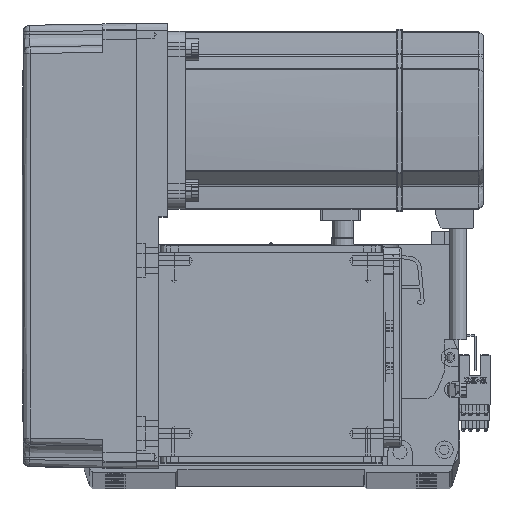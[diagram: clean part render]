
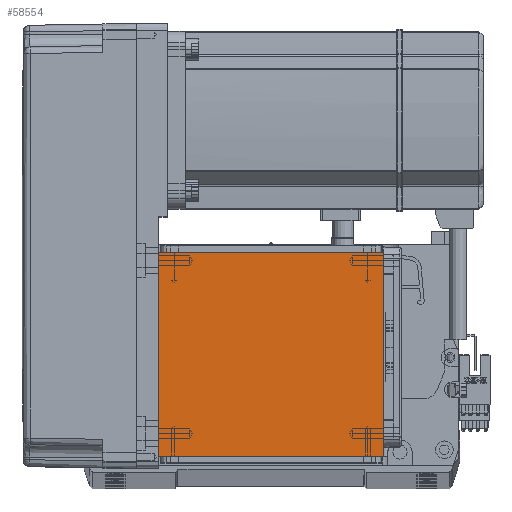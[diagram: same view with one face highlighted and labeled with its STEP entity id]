
A CAD part, top view. The second image highlights one B-rep face of the part: STEP entity #58554.
In plain terms, the highlighted planar face has unit normal (0, 0, 1).
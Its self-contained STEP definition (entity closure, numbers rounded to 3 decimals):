
#640 = AXIS2_PLACEMENT_3D ( 'NONE', #28033, #11586, #709 ) ;
#709 = DIRECTION ( 'NONE',  ( 1., 0., 0. ) ) ;
#1182 = PLANE ( 'NONE',  #640 ) ;
#1860 = EDGE_CURVE ( 'NONE', #25215, #20378, #25155, .T. ) ;
#3850 = DIRECTION ( 'NONE',  ( 0., 1., 0. ) ) ;
#5144 = FACE_OUTER_BOUND ( 'NONE', #11793, .T. ) ;
#5408 = CARTESIAN_POINT ( 'NONE',  ( -70.004, 20., 115. ) ) ;
#8342 = CARTESIAN_POINT ( 'NONE',  ( -70.004, 111.5, 115. ) ) ;
#9602 = ORIENTED_EDGE ( 'NONE', *, *, #1860, .T. ) ;
#11586 = DIRECTION ( 'NONE',  ( 0., 0., 1. ) ) ;
#11793 = EDGE_LOOP ( 'NONE', ( #27917, #9602, #27670, #65905 ) ) ;
#13323 = DIRECTION ( 'NONE',  ( 1., 0., 0. ) ) ;
#20195 = CARTESIAN_POINT ( 'NONE',  ( -50.5, 111.5, 115. ) ) ;
#20378 = VERTEX_POINT ( 'NONE', #44010 ) ;
#25155 = LINE ( 'NONE', #52620, #60992 ) ;
#25215 = VERTEX_POINT ( 'NONE', #20195 ) ;
#27670 = ORIENTED_EDGE ( 'NONE', *, *, #58413, .F. ) ;
#27917 = ORIENTED_EDGE ( 'NONE', *, *, #30466, .F. ) ;
#28033 = CARTESIAN_POINT ( 'NONE',  ( 0., 0., 115. ) ) ;
#29975 = LINE ( 'NONE', #5408, #60671 ) ;
#30466 = EDGE_CURVE ( 'NONE', #25215, #63880, #39201, .T. ) ;
#30677 = LINE ( 'NONE', #57441, #60478 ) ;
#33833 = DIRECTION ( 'NONE',  ( 0., -1., 0. ) ) ;
#39201 = LINE ( 'NONE', #8342, #53645 ) ;
#44010 = CARTESIAN_POINT ( 'NONE',  ( -50.5, 20., 115. ) ) ;
#49384 = CARTESIAN_POINT ( 'NONE',  ( 50.5, 20., 115. ) ) ;
#49522 = VERTEX_POINT ( 'NONE', #49384 ) ;
#52620 = CARTESIAN_POINT ( 'NONE',  ( -50.5, 122., 115. ) ) ;
#53645 = VECTOR ( 'NONE', #13323, 1000. ) ;
#57441 = CARTESIAN_POINT ( 'NONE',  ( 50.5, 122., 115. ) ) ;
#58413 = EDGE_CURVE ( 'NONE', #49522, #20378, #29975, .T. ) ;
#58554 = ADVANCED_FACE ( 'NONE', ( #5144 ), #1182, .T. ) ;
#59397 = EDGE_CURVE ( 'NONE', #49522, #63880, #30677, .T. ) ;
#60478 = VECTOR ( 'NONE', #3850, 1000. ) ;
#60671 = VECTOR ( 'NONE', #69255, 1000. ) ;
#60992 = VECTOR ( 'NONE', #33833, 1000. ) ;
#63880 = VERTEX_POINT ( 'NONE', #67574 ) ;
#65905 = ORIENTED_EDGE ( 'NONE', *, *, #59397, .T. ) ;
#67574 = CARTESIAN_POINT ( 'NONE',  ( 50.5, 111.5, 115. ) ) ;
#69255 = DIRECTION ( 'NONE',  ( -1., 0., 0. ) ) ;
